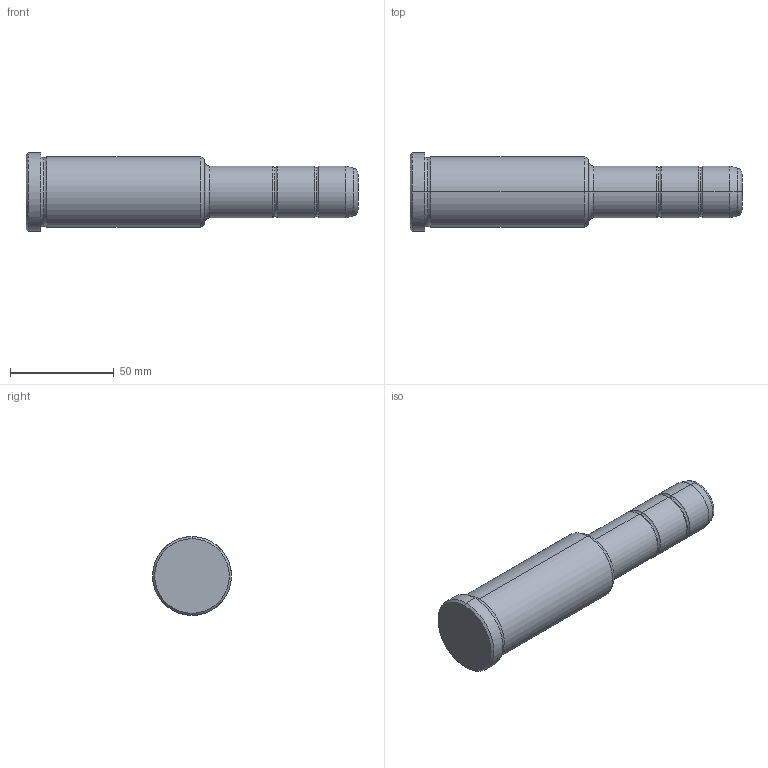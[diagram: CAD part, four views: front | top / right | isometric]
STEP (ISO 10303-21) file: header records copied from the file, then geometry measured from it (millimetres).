
FILE_DESCRIPTION(('CATIA V5 STEP Exchange'),'2;1');
FILE_NAME('C:\Users\Utente\Desktop\IO LAVORO\3D X SITO CF\X SITO\PLASTICA\351\351-25X86X160.stp','2021-09-07T11:26:29+00:00',('none'),('none'),'CATIA Version 5 Release 20 GA (IN-10)','CATIA V5 STEP AP203','none');
FILE_SCHEMA(('CONFIG_CONTROL_DESIGN'));
Length unit declared in the file: millimetre
Products named in the file (1): 351-25X86X160
Bounding box: 160 x 38 x 38 mm (x, y, z)
Volume: 115200.1 mm3; surface area: 17044.2 mm2
Topology: 1 solids, 1 shells, 36 faces, 102 edges, 70 vertices
Faces by surface type: torus 16, cylinder 10, cone 6, plane 4
Entity records: 1292 total; most frequent: CARTESIAN_POINT 321, ORIENTED_EDGE 204, DIRECTION 166, AXIS2_PLACEMENT_3D 115, EDGE_CURVE 102, CIRCLE 78, VERTEX_POINT 70, EDGE_LOOP 38
